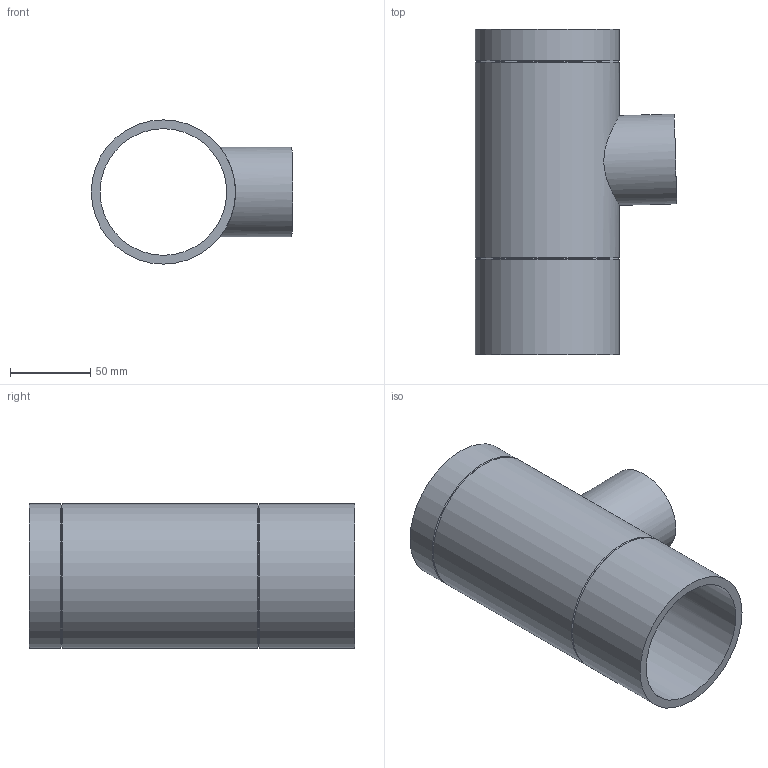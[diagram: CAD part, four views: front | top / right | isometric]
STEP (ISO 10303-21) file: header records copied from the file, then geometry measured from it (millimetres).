
FILE_DESCRIPTION(/* description */ (''),/* implementation_level */ '2;1');
FILE_NAME(/* name */ 'Z:\Geberit\Export\Export18\Abzweig Gerade_Ipart\stp\308058.stp',/* time_stamp */ '2014-08-26T21:48:41+02:00',/* author */ ('ML'),/* organization */ (''),/* preprocessor_version */ 'ST-DEVELOPER v15.2',/* originating_system */ 'Autodesk Inventor 2014',/* authorisation */ '');
FILE_SCHEMA (('AUTOMOTIVE_DESIGN { 1 0 10303 214 3 1 1 }'));
Length unit declared in the file: millimetre
Products named in the file (1): 308058
Bounding box: 125.71 x 203 x 90 mm (x, y, z)
Volume: 305682.2 mm3; surface area: 121119.3 mm2
Topology: 1 solids, 1 shells, 13 faces, 31 edges, 20 vertices
Faces by surface type: cylinder 6, cone 4, plane 3
Full cylindrical faces by diameter (mm): 49.6 x1, 56 x1, 79 x1, 90 x3
Entity records: 427 total; most frequent: CARTESIAN_POINT 172, DIRECTION 52, EDGE_LOOP 28, ORIENTED_EDGE 28, AXIS2_PLACEMENT_3D 26, FACE_BOUND 19, VERTEX_POINT 14, EDGE_CURVE 14
